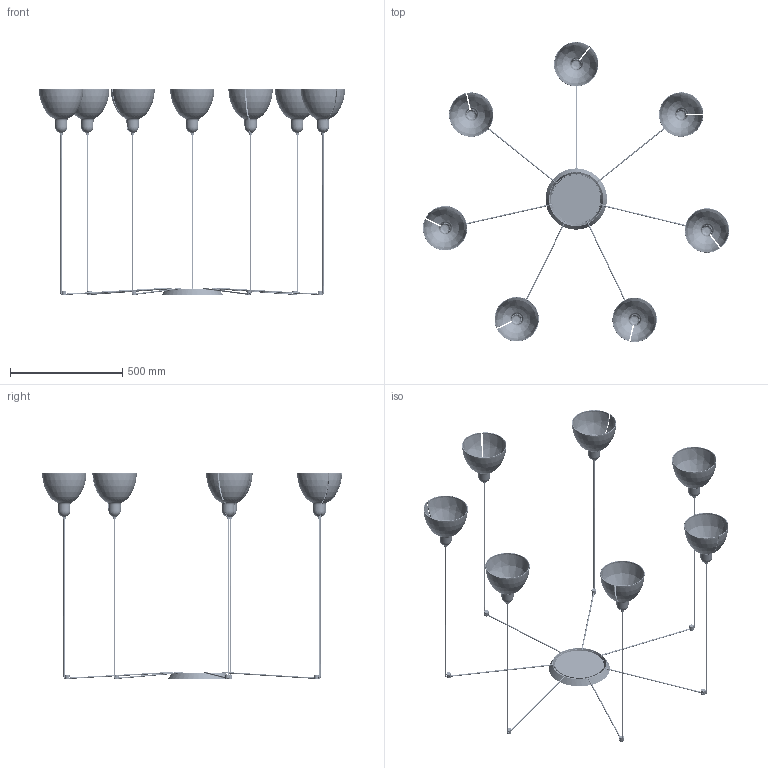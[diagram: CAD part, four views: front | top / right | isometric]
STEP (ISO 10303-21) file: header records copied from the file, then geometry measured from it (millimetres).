
FILE_DESCRIPTION(/* description */ (''),/* implementation_level */ '2;1');
FILE_NAME(/* name */ '64255-127-7L.step',/* time_stamp */ '2024-05-09T16:22:39+02:00',/* author */ ('RenataManzini'),/* organization */ (''),/* preprocessor_version */ 'ST-DEVELOPER v20',/* originating_system */ 'AutoCAD Mechanical',/* authorisation */ '');
FILE_SCHEMA (('AUTOMOTIVE_DESIGN { 1 0 10303 214 3 1 1 }'));
Products named in the file (2): Product; VENICE_CAN7 - 68603-491268-_3D_
Assembly tree (1 placements, depth 2):
  Product
    VENICE_CAN7 - 68603-491268-_3D_
Bounding box: 1365.87 x 1338.29 x 923.11 mm (x, y, z)
Volume: 1146460.7 mm3; surface area: 3240439.3 mm2
Topology: 72 solids, 401 shells, 6484 faces, 20820 edges, 14623 vertices
Faces by surface type: bspline 2128, cone 1501, plane 1330, torus 1138, cylinder 387
Entity records: 305027 total; most frequent: CARTESIAN_POINT 134098, ORIENTED_EDGE 36895, DIRECTION 33191, EDGE_CURVE 20803, VERTEX_POINT 14618, AXIS2_PLACEMENT_3D 13552, CIRCLE 9193, EDGE_LOOP 6562
